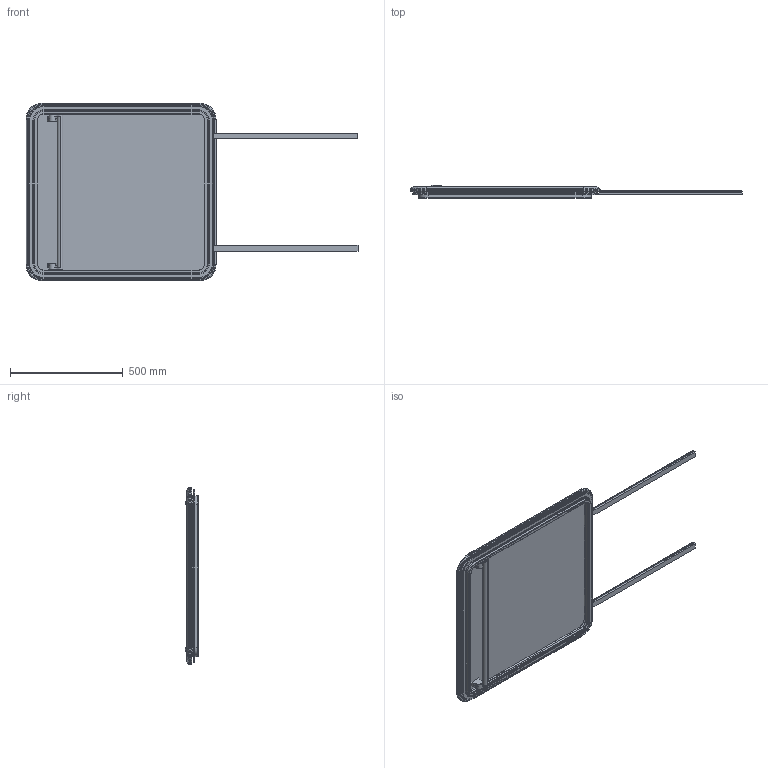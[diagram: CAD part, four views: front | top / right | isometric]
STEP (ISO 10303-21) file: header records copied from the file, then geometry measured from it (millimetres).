
FILE_DESCRIPTION((''),'2;1');
FILE_NAME('LEWMAR-HATCH-PILOT-78_ASM','2008-02-06T',('skennedy'),(''),'PRO/ENGINEER BY PARAMETRIC TECHNOLOGY CORPORATION, 2007030','PRO/ENGINEER BY PARAMETRIC TECHNOLOGY CORPORATION, 2007030','');
FILE_SCHEMA(('CONFIG_CONTROL_DESIGN'));
Length unit declared in the file: millimetre
Products named in the file (5): FRAME_78; 30069803; PILOT_HANDLE_78; PILOT_78_LOWER; LEWMAR-HATCH-PILOT-78_ASM
Assembly tree (4 placements, depth 2):
  LEWMAR-HATCH-PILOT-78_ASM
    FRAME_78
    30069803
    PILOT_HANDLE_78
    PILOT_78_LOWER
Bounding box: 1474.74 x 57.8 x 790 mm (x, y, z)
Volume: 7672549.8 mm3; surface area: 2570233.1 mm2
Topology: 3 solids, 6 shells, 1093 faces, 2662 edges, 1614 vertices
Faces by surface type: plane 457, cylinder 312, bspline 192, torus 84, cone 40, sphere 8
Entity records: 37468 total; most frequent: CARTESIAN_POINT 12227, ORIENTED_EDGE 5324, DIRECTION 5052, EDGE_CURVE 2662, AXIS2_PLACEMENT_3D 1724, VERTEX_POINT 1614, VECTOR 1604, LINE 1604
